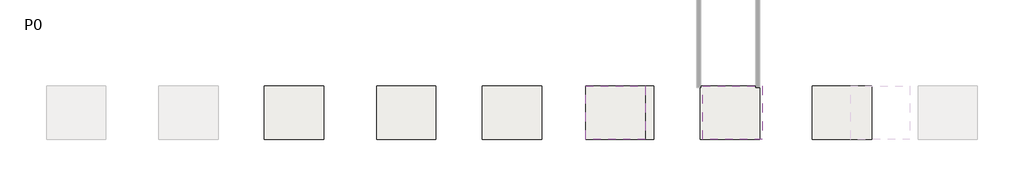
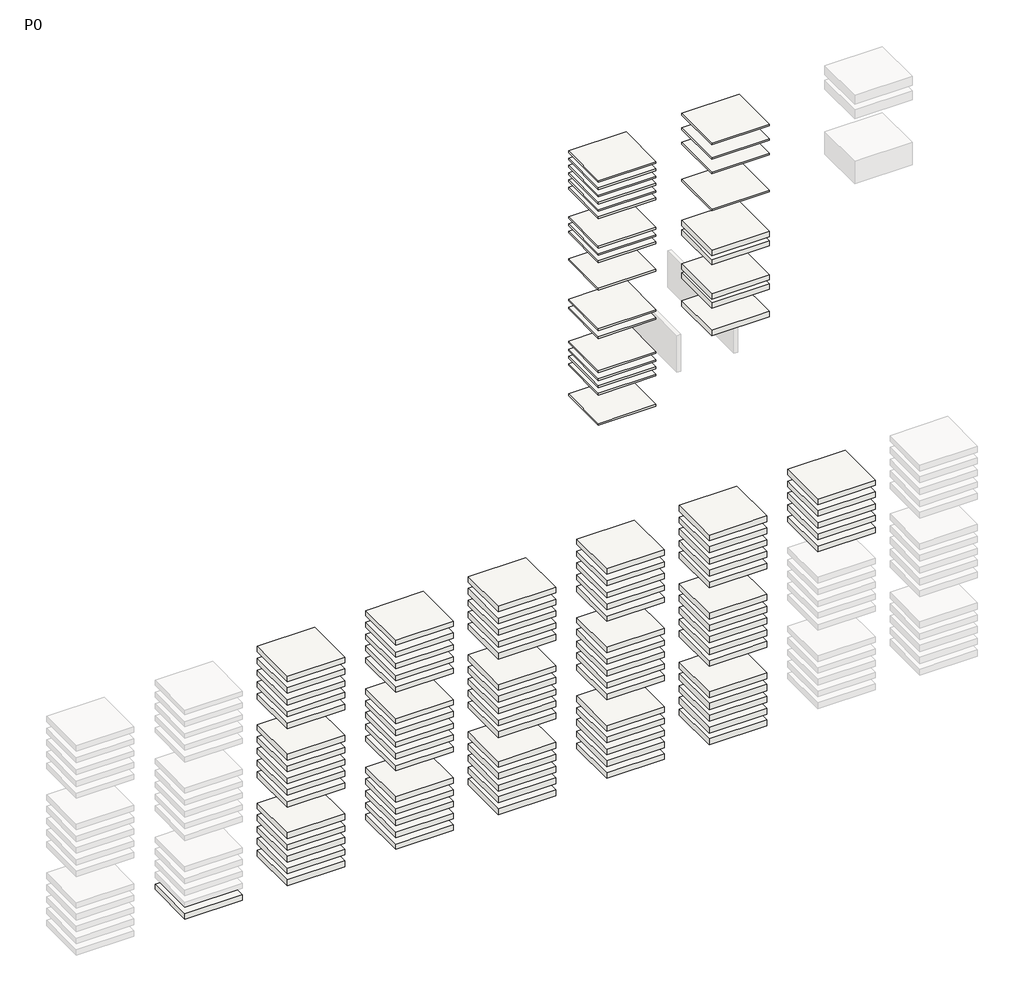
# One storey, part 4 of 11: 107 slabs.
"""IFC4 building model written with IfcOpenShell, lengths in millimetres."""

from ifc_helpers import new_model, si_unit, frame, origin, place, context, project, spatial, polyline, outline, extrude, element, save

model = new_model("IFC4")

# Units and contexts
model_context = context("Model", 3, world=origin())
ifc_project = project(units=[si_unit("LENGTHUNIT", "METRE", prefix="MILLI")], contexts=[model_context])

# Site, building, storey
site = spatial("IfcSite", under=ifc_project)
building = spatial("IfcBuilding", under=site)
storey = spatial("IfcBuildingStorey", under=building, Name="P0", Elevation=0.0)

# Slabs
placement = place(None, origin())
element("IfcSlab", 1, ObjectType="SOTTOFONDO IN PIETRISCO", at=placement, inside=storey, context=model_context, shape_type="SweptSolid", body=[
    extrude(outline(polyline([(91983.630207, 1686.0689128), (91983.630207, -1013.9310872), (88983.630207, -1013.9310872), (88983.630207, 1686.0689128), (91983.630207, 1686.0689128)])), frame((0.0, 0.0, 10663.6877445), z_axis=(0.0, 0.0, 1.0), x_axis=(1.0, 0.0, 0.0)), (0.0, 0.0, 1.0), 100.0),
])
element("IfcSlab", 2, ObjectType="PAVIMENTAZIONE DRENANTE GHIAIA", at=placement, inside=storey, context=model_context, shape_type="SweptSolid", body=[
    extrude(outline(polyline([(91983.630207, 1686.0689128), (91983.630207, -1013.9310872), (88983.630207, -1013.9310872), (88983.630207, 1686.0689128), (91983.630207, 1686.0689128)])), frame((0.0, 0.0, 8203.6877445), z_axis=(0.0, 0.0, 1.0), x_axis=(1.0, 0.0, 0.0)), (0.0, 0.0, 1.0), 300.0),
])
element("IfcSlab", 3, ObjectType="PAVIMENTAZIONE DRENANTE GHIAIA", at=placement, inside=storey, context=model_context, shape_type="SweptSolid", body=[
    extrude(outline(polyline([(91983.630207, 1686.0689128), (91983.630207, -1013.9310872), (88983.630207, -1013.9310872), (88983.630207, 1686.0689128), (91983.630207, 1686.0689128)])), frame((0.0, 0.0, 7683.6877445), z_axis=(0.0, 0.0, 1.0), x_axis=(1.0, 0.0, 0.0)), (0.0, 0.0, 1.0), 300.0),
])
element("IfcSlab", 4, ObjectType="NNEH16 H7", at=placement, inside=storey, context=model_context, shape_type="SweptSolid", body=[
    extrude(outline(polyline([(64510.1564071, 1686.0689128), (64510.1564071, -1013.9310872), (61510.1564071, -1013.9310872), (61510.1564071, 1686.0689128), (64510.1564071, 1686.0689128)])), frame((0.0, 0.0, -18769.5322376), z_axis=(0.0, 0.0, 1.0), x_axis=(1.0, 0.0, 0.0)), (0.0, 0.0, 1.0), 288.0),
])
element("IfcSlab", 5, ObjectType="NNEH16 H8", at=placement, inside=storey, context=model_context, shape_type="SweptSolid", body=[
    extrude(outline(polyline([(69850.1564071, 1686.0689128), (69850.1564071, -1013.9310872), (66850.1564071, -1013.9310872), (66850.1564071, 1686.0689128), (69850.1564071, 1686.0689128)])), frame((0.0, 0.0, -7539.5322376), z_axis=(0.0, 0.0, 1.0), x_axis=(1.0, 0.0, 0.0)), (0.0, 0.0, 1.0), 298.0),
])
element("IfcSlab", 6, ObjectType="NNEH16 H8", at=placement, inside=storey, context=model_context, shape_type="SweptSolid", body=[
    extrude(outline(polyline([(69850.1564071, 1686.0689128), (69850.1564071, -1013.9310872), (66850.1564071, -1013.9310872), (66850.1564071, 1686.0689128), (69850.1564071, 1686.0689128)])), frame((0.0, 0.0, -8189.5322376), z_axis=(0.0, 0.0, 1.0), x_axis=(1.0, 0.0, 0.0)), (0.0, 0.0, 1.0), 298.0),
])
element("IfcSlab", 7, ObjectType="NNEH16 H8", at=placement, inside=storey, context=model_context, shape_type="SweptSolid", body=[
    extrude(outline(polyline([(69850.1564071, 1686.0689128), (69850.1564071, -1013.9310872), (66850.1564071, -1013.9310872), (66850.1564071, 1686.0689128), (69850.1564071, 1686.0689128)])), frame((0.0, 0.0, -8839.5322376), z_axis=(0.0, 0.0, 1.0), x_axis=(1.0, 0.0, 0.0)), (0.0, 0.0, 1.0), 298.0),
])
element("IfcSlab", 8, ObjectType="NNEH16 H8", at=placement, inside=storey, context=model_context, shape_type="SweptSolid", body=[
    extrude(outline(polyline([(69850.1564071, 1686.0689128), (69850.1564071, -1013.9310872), (66850.1564071, -1013.9310872), (66850.1564071, 1686.0689128), (69850.1564071, 1686.0689128)])), frame((0.0, 0.0, -9489.5322376), z_axis=(0.0, 0.0, 1.0), x_axis=(1.0, 0.0, 0.0)), (0.0, 0.0, 1.0), 298.0),
])
element("IfcSlab", 9, ObjectType="NNEH16 H8", at=placement, inside=storey, context=model_context, shape_type="SweptSolid", body=[
    extrude(outline(polyline([(69850.1564071, 1686.0689128), (69850.1564071, -1013.9310872), (66850.1564071, -1013.9310872), (66850.1564071, 1686.0689128), (69850.1564071, 1686.0689128)])), frame((0.0, 0.0, -10139.5323192), z_axis=(0.0, 0.0, 1.0), x_axis=(1.0, 0.0, 0.0)), (0.0, 0.0, 1.0), 298.0),
])
element("IfcSlab", 10, ObjectType="NNEH16 H9", at=placement, inside=storey, context=model_context, shape_type="SweptSolid", body=[
    extrude(outline(polyline([(69850.1564071, 1686.0689128), (69850.1564071, -1013.9310872), (66850.1564071, -1013.9310872), (66850.1564071, 1686.0689128), (69850.1564071, 1686.0689128)])), frame((0.0, 0.0, -11869.532156), z_axis=(0.0, 0.0, 1.0), x_axis=(1.0, 0.0, 0.0)), (0.0, 0.0, 1.0), 308.0),
])
element("IfcSlab", 11, ObjectType="NNEH16 H9", at=placement, inside=storey, context=model_context, shape_type="SweptSolid", body=[
    extrude(outline(polyline([(69850.1564071, 1686.0689128), (69850.1564071, -1013.9310872), (66850.1564071, -1013.9310872), (66850.1564071, 1686.0689128), (69850.1564071, 1686.0689128)])), frame((0.0, 0.0, -12519.532156), z_axis=(0.0, 0.0, 1.0), x_axis=(1.0, 0.0, 0.0)), (0.0, 0.0, 1.0), 308.0),
])
element("IfcSlab", 12, ObjectType="NNEH16 H9", at=placement, inside=storey, context=model_context, shape_type="SweptSolid", body=[
    extrude(outline(polyline([(69850.1564071, 1686.0689128), (69850.1564071, -1013.9310872), (66850.1564071, -1013.9310872), (66850.1564071, 1686.0689128), (69850.1564071, 1686.0689128)])), frame((0.0, 0.0, -13169.532156), z_axis=(0.0, 0.0, 1.0), x_axis=(1.0, 0.0, 0.0)), (0.0, 0.0, 1.0), 308.0),
])
element("IfcSlab", 13, ObjectType="NNEH16 H9", at=placement, inside=storey, context=model_context, shape_type="SweptSolid", body=[
    extrude(outline(polyline([(69850.1564071, 1686.0689128), (69850.1564071, -1013.9310872), (66850.1564071, -1013.9310872), (66850.1564071, 1686.0689128), (69850.1564071, 1686.0689128)])), frame((0.0, 0.0, -13819.532156), z_axis=(0.0, 0.0, 1.0), x_axis=(1.0, 0.0, 0.0)), (0.0, 0.0, 1.0), 308.0),
])
element("IfcSlab", 14, ObjectType="NNEH16 H9", at=placement, inside=storey, context=model_context, shape_type="SweptSolid", body=[
    extrude(outline(polyline([(69850.1564071, 1686.0689128), (69850.1564071, -1013.9310872), (66850.1564071, -1013.9310872), (66850.1564071, 1686.0689128), (69850.1564071, 1686.0689128)])), frame((0.0, 0.0, -14469.532156), z_axis=(0.0, 0.0, 1.0), x_axis=(1.0, 0.0, 0.0)), (0.0, 0.0, 1.0), 308.0),
])
element("IfcSlab", 15, ObjectType="NNEH16 H10", at=placement, inside=storey, context=model_context, shape_type="SweptSolid", body=[
    extrude(outline(polyline([(69850.1564071, 1686.0689128), (69850.1564071, -1013.9310872), (66850.1564071, -1013.9310872), (66850.1564071, 1686.0689128), (69850.1564071, 1686.0689128)])), frame((0.0, 0.0, -16199.5322376), z_axis=(0.0, 0.0, 1.0), x_axis=(1.0, 0.0, 0.0)), (0.0, 0.0, 1.0), 318.0),
])
element("IfcSlab", 16, ObjectType="NNEH16 H10", at=placement, inside=storey, context=model_context, shape_type="SweptSolid", body=[
    extrude(outline(polyline([(69850.1564071, 1686.0689128), (69850.1564071, -1013.9310872), (66850.1564071, -1013.9310872), (66850.1564071, 1686.0689128), (69850.1564071, 1686.0689128)])), frame((0.0, 0.0, -16849.5322376), z_axis=(0.0, 0.0, 1.0), x_axis=(1.0, 0.0, 0.0)), (0.0, 0.0, 1.0), 318.0),
])
element("IfcSlab", 17, ObjectType="NNEH16 H10", at=placement, inside=storey, context=model_context, shape_type="SweptSolid", body=[
    extrude(outline(polyline([(69850.1564071, 1686.0689128), (69850.1564071, -1013.9310872), (66850.1564071, -1013.9310872), (66850.1564071, 1686.0689128), (69850.1564071, 1686.0689128)])), frame((0.0, 0.0, -17499.5322376), z_axis=(0.0, 0.0, 1.0), x_axis=(1.0, 0.0, 0.0)), (0.0, 0.0, 1.0), 318.0),
])
element("IfcSlab", 18, ObjectType="NNEH16 H10", at=placement, inside=storey, context=model_context, shape_type="SweptSolid", body=[
    extrude(outline(polyline([(69850.1564071, 1686.0689128), (69850.1564071, -1013.9310872), (66850.1564071, -1013.9310872), (66850.1564071, 1686.0689128), (69850.1564071, 1686.0689128)])), frame((0.0, 0.0, -18149.5322376), z_axis=(0.0, 0.0, 1.0), x_axis=(1.0, 0.0, 0.0)), (0.0, 0.0, 1.0), 318.0),
])
element("IfcSlab", 19, ObjectType="NNEH16 H10", at=placement, inside=storey, context=model_context, shape_type="SweptSolid", body=[
    extrude(outline(polyline([(69850.1564071, 1686.0689128), (69850.1564071, -1013.9310872), (66850.1564071, -1013.9310872), (66850.1564071, 1686.0689128), (69850.1564071, 1686.0689128)])), frame((0.0, 0.0, -18799.5322376), z_axis=(0.0, 0.0, 1.0), x_axis=(1.0, 0.0, 0.0)), (0.0, 0.0, 1.0), 318.0),
])
element("IfcSlab", 20, ObjectType="NNEH17 H5", at=placement, inside=storey, context=model_context, shape_type="SweptSolid", body=[
    extrude(outline(polyline([(75510.1564071, 1686.0689128), (75510.1564071, -1013.9310872), (72510.1564071, -1013.9310872), (72510.1564071, 1686.0689128), (75510.1564071, 1686.0689128)])), frame((0.0, 0.0, -7519.5323192), z_axis=(0.0, 0.0, 1.0), x_axis=(1.0, 0.0, 0.0)), (0.0, 0.0, 1.0), 278.0),
])
element("IfcSlab", 21, ObjectType="NNEH17 H5", at=placement, inside=storey, context=model_context, shape_type="SweptSolid", body=[
    extrude(outline(polyline([(75510.1564071, 1686.0689128), (75510.1564071, -1013.9310872), (72510.1564071, -1013.9310872), (72510.1564071, 1686.0689128), (75510.1564071, 1686.0689128)])), frame((0.0, 0.0, -8169.5322376), z_axis=(0.0, 0.0, 1.0), x_axis=(1.0, 0.0, 0.0)), (0.0, 0.0, 1.0), 278.0),
])
element("IfcSlab", 22, ObjectType="NNEH17 H5", at=placement, inside=storey, context=model_context, shape_type="SweptSolid", body=[
    extrude(outline(polyline([(75510.1564071, 1686.0689128), (75510.1564071, -1013.9310872), (72510.1564071, -1013.9310872), (72510.1564071, 1686.0689128), (75510.1564071, 1686.0689128)])), frame((0.0, 0.0, -8819.5322376), z_axis=(0.0, 0.0, 1.0), x_axis=(1.0, 0.0, 0.0)), (0.0, 0.0, 1.0), 278.0),
])
element("IfcSlab", 23, ObjectType="NNEH17 H5", at=placement, inside=storey, context=model_context, shape_type="SweptSolid", body=[
    extrude(outline(polyline([(75510.1564071, 1686.0689128), (75510.1564071, -1013.9310872), (72510.1564071, -1013.9310872), (72510.1564071, 1686.0689128), (75510.1564071, 1686.0689128)])), frame((0.0, 0.0, -9469.5322376), z_axis=(0.0, 0.0, 1.0), x_axis=(1.0, 0.0, 0.0)), (0.0, 0.0, 1.0), 278.0),
])
element("IfcSlab", 24, ObjectType="NNEH17 H5", at=placement, inside=storey, context=model_context, shape_type="SweptSolid", body=[
    extrude(outline(polyline([(75510.1564071, 1686.0689128), (75510.1564071, -1013.9310872), (72510.1564071, -1013.9310872), (72510.1564071, 1686.0689128), (75510.1564071, 1686.0689128)])), frame((0.0, 0.0, -10119.5323192), z_axis=(0.0, 0.0, 1.0), x_axis=(1.0, 0.0, 0.0)), (0.0, 0.0, 1.0), 278.0),
])
element("IfcSlab", 25, ObjectType="NNEH17 H6", at=placement, inside=storey, context=model_context, shape_type="SweptSolid", body=[
    extrude(outline(polyline([(75510.1564071, 1686.0689128), (75510.1564071, -1013.9310872), (72510.1564071, -1013.9310872), (72510.1564071, 1686.0689128), (75510.1564071, 1686.0689128)])), frame((0.0, 0.0, -11849.532156), z_axis=(0.0, 0.0, 1.0), x_axis=(1.0, 0.0, 0.0)), (0.0, 0.0, 1.0), 288.0),
])
element("IfcSlab", 26, ObjectType="NNEH17 H6", at=placement, inside=storey, context=model_context, shape_type="SweptSolid", body=[
    extrude(outline(polyline([(75510.1564071, 1686.0689128), (75510.1564071, -1013.9310872), (72510.1564071, -1013.9310872), (72510.1564071, 1686.0689128), (75510.1564071, 1686.0689128)])), frame((0.0, 0.0, -12499.532156), z_axis=(0.0, 0.0, 1.0), x_axis=(1.0, 0.0, 0.0)), (0.0, 0.0, 1.0), 288.0),
])
element("IfcSlab", 27, ObjectType="NNEH17 H6", at=placement, inside=storey, context=model_context, shape_type="SweptSolid", body=[
    extrude(outline(polyline([(75510.1564071, 1686.0689128), (75510.1564071, -1013.9310872), (72510.1564071, -1013.9310872), (72510.1564071, 1686.0689128), (75510.1564071, 1686.0689128)])), frame((0.0, 0.0, -13149.532156), z_axis=(0.0, 0.0, 1.0), x_axis=(1.0, 0.0, 0.0)), (0.0, 0.0, 1.0), 288.0),
])
element("IfcSlab", 28, ObjectType="NNEH17 H6", at=placement, inside=storey, context=model_context, shape_type="SweptSolid", body=[
    extrude(outline(polyline([(75510.1564071, 1686.0689128), (75510.1564071, -1013.9310872), (72510.1564071, -1013.9310872), (72510.1564071, 1686.0689128), (75510.1564071, 1686.0689128)])), frame((0.0, 0.0, -13799.532156), z_axis=(0.0, 0.0, 1.0), x_axis=(1.0, 0.0, 0.0)), (0.0, 0.0, 1.0), 288.0),
])
element("IfcSlab", 29, ObjectType="NNEH17 H6", at=placement, inside=storey, context=model_context, shape_type="SweptSolid", body=[
    extrude(outline(polyline([(75510.1564071, 1686.0689128), (75510.1564071, -1013.9310872), (72510.1564071, -1013.9310872), (72510.1564071, 1686.0689128), (75510.1564071, 1686.0689128)])), frame((0.0, 0.0, -14449.532156), z_axis=(0.0, 0.0, 1.0), x_axis=(1.0, 0.0, 0.0)), (0.0, 0.0, 1.0), 288.0),
])
element("IfcSlab", 30, ObjectType="NNEH17 H7", at=placement, inside=storey, context=model_context, shape_type="SweptSolid", body=[
    extrude(outline(polyline([(75510.1564071, 1686.0689128), (75510.1564071, -1013.9310872), (72510.1564071, -1013.9310872), (72510.1564071, 1686.0689128), (75510.1564071, 1686.0689128)])), frame((0.0, 0.0, -16179.5322376), z_axis=(0.0, 0.0, 1.0), x_axis=(1.0, 0.0, 0.0)), (0.0, 0.0, 1.0), 298.0),
])
element("IfcSlab", 31, ObjectType="NNEH17 H7", at=placement, inside=storey, context=model_context, shape_type="SweptSolid", body=[
    extrude(outline(polyline([(75510.1564071, 1686.0689128), (75510.1564071, -1013.9310872), (72510.1564071, -1013.9310872), (72510.1564071, 1686.0689128), (75510.1564071, 1686.0689128)])), frame((0.0, 0.0, -16829.5322376), z_axis=(0.0, 0.0, 1.0), x_axis=(1.0, 0.0, 0.0)), (0.0, 0.0, 1.0), 298.0),
])
element("IfcSlab", 32, ObjectType="NNEH17 H7", at=placement, inside=storey, context=model_context, shape_type="SweptSolid", body=[
    extrude(outline(polyline([(75510.1564071, 1686.0689128), (75510.1564071, -1013.9310872), (72510.1564071, -1013.9310872), (72510.1564071, 1686.0689128), (75510.1564071, 1686.0689128)])), frame((0.0, 0.0, -17479.5322376), z_axis=(0.0, 0.0, 1.0), x_axis=(1.0, 0.0, 0.0)), (0.0, 0.0, 1.0), 298.0),
])
element("IfcSlab", 33, ObjectType="NNEH17 H7", at=placement, inside=storey, context=model_context, shape_type="SweptSolid", body=[
    extrude(outline(polyline([(75510.1564071, 1686.0689128), (75510.1564071, -1013.9310872), (72510.1564071, -1013.9310872), (72510.1564071, 1686.0689128), (75510.1564071, 1686.0689128)])), frame((0.0, 0.0, -18129.5322376), z_axis=(0.0, 0.0, 1.0), x_axis=(1.0, 0.0, 0.0)), (0.0, 0.0, 1.0), 298.0),
])
element("IfcSlab", 34, ObjectType="NNEH17 H7", at=placement, inside=storey, context=model_context, shape_type="SweptSolid", body=[
    extrude(outline(polyline([(75510.1564071, 1686.0689128), (75510.1564071, -1013.9310872), (72510.1564071, -1013.9310872), (72510.1564071, 1686.0689128), (75510.1564071, 1686.0689128)])), frame((0.0, 0.0, -18779.5322376), z_axis=(0.0, 0.0, 1.0), x_axis=(1.0, 0.0, 0.0)), (0.0, 0.0, 1.0), 298.0),
])
element("IfcSlab", 35, ObjectType="NNEH17 H8", at=placement, inside=storey, context=model_context, shape_type="SweptSolid", body=[
    extrude(outline(polyline([(80850.1564071, 1686.0689128), (80850.1564071, -1013.9310872), (77850.1564071, -1013.9310872), (77850.1564071, 1686.0689128), (80850.1564071, 1686.0689128)])), frame((0.0, 0.0, -7549.5322376), z_axis=(0.0, 0.0, 1.0), x_axis=(1.0, 0.0, 0.0)), (0.0, 0.0, 1.0), 308.0),
])
element("IfcSlab", 36, ObjectType="NNEH17 H8", at=placement, inside=storey, context=model_context, shape_type="SweptSolid", body=[
    extrude(outline(polyline([(80850.1564071, 1686.0689128), (80850.1564071, -1013.9310872), (77850.1564071, -1013.9310872), (77850.1564071, 1686.0689128), (80850.1564071, 1686.0689128)])), frame((0.0, 0.0, -8199.5322376), z_axis=(0.0, 0.0, 1.0), x_axis=(1.0, 0.0, 0.0)), (0.0, 0.0, 1.0), 308.0),
])
element("IfcSlab", 37, ObjectType="NNEH17 H8", at=placement, inside=storey, context=model_context, shape_type="SweptSolid", body=[
    extrude(outline(polyline([(80850.1564071, 1686.0689128), (80850.1564071, -1013.9310872), (77850.1564071, -1013.9310872), (77850.1564071, 1686.0689128), (80850.1564071, 1686.0689128)])), frame((0.0, 0.0, -8849.5322376), z_axis=(0.0, 0.0, 1.0), x_axis=(1.0, 0.0, 0.0)), (0.0, 0.0, 1.0), 308.0),
])
element("IfcSlab", 38, ObjectType="NNEH17 H8", at=placement, inside=storey, context=model_context, shape_type="SweptSolid", body=[
    extrude(outline(polyline([(80850.1564071, 1686.0689128), (80850.1564071, -1013.9310872), (77850.1564071, -1013.9310872), (77850.1564071, 1686.0689128), (80850.1564071, 1686.0689128)])), frame((0.0, 0.0, -9499.5322376), z_axis=(0.0, 0.0, 1.0), x_axis=(1.0, 0.0, 0.0)), (0.0, 0.0, 1.0), 308.0),
])
element("IfcSlab", 39, ObjectType="NNEH17 H8", at=placement, inside=storey, context=model_context, shape_type="SweptSolid", body=[
    extrude(outline(polyline([(80850.1564071, 1686.0689128), (80850.1564071, -1013.9310872), (77850.1564071, -1013.9310872), (77850.1564071, 1686.0689128), (80850.1564071, 1686.0689128)])), frame((0.0, 0.0, -10149.5323192), z_axis=(0.0, 0.0, 1.0), x_axis=(1.0, 0.0, 0.0)), (0.0, 0.0, 1.0), 308.0),
])
element("IfcSlab", 40, ObjectType="NNEH17 H9", at=placement, inside=storey, context=model_context, shape_type="SweptSolid", body=[
    extrude(outline(polyline([(80850.1564071, 1686.0689128), (80850.1564071, -1013.9310872), (77850.1564071, -1013.9310872), (77850.1564071, 1686.0689128), (80850.1564071, 1686.0689128)])), frame((0.0, 0.0, -11879.532156), z_axis=(0.0, 0.0, 1.0), x_axis=(1.0, 0.0, 0.0)), (0.0, 0.0, 1.0), 318.0),
])
element("IfcSlab", 41, ObjectType="NNEH17 H9", at=placement, inside=storey, context=model_context, shape_type="SweptSolid", body=[
    extrude(outline(polyline([(80850.1564071, 1686.0689128), (80850.1564071, -1013.9310872), (77850.1564071, -1013.9310872), (77850.1564071, 1686.0689128), (80850.1564071, 1686.0689128)])), frame((0.0, 0.0, -12529.532156), z_axis=(0.0, 0.0, 1.0), x_axis=(1.0, 0.0, 0.0)), (0.0, 0.0, 1.0), 318.0),
])
element("IfcSlab", 42, ObjectType="NNEH17 H9", at=placement, inside=storey, context=model_context, shape_type="SweptSolid", body=[
    extrude(outline(polyline([(80850.1564071, 1686.0689128), (80850.1564071, -1013.9310872), (77850.1564071, -1013.9310872), (77850.1564071, 1686.0689128), (80850.1564071, 1686.0689128)])), frame((0.0, 0.0, -13179.532156), z_axis=(0.0, 0.0, 1.0), x_axis=(1.0, 0.0, 0.0)), (0.0, 0.0, 1.0), 318.0),
])
element("IfcSlab", 43, ObjectType="NNEH17 H9", at=placement, inside=storey, context=model_context, shape_type="SweptSolid", body=[
    extrude(outline(polyline([(80850.1564071, 1686.0689128), (80850.1564071, -1013.9310872), (77850.1564071, -1013.9310872), (77850.1564071, 1686.0689128), (80850.1564071, 1686.0689128)])), frame((0.0, 0.0, -13829.532156), z_axis=(0.0, 0.0, 1.0), x_axis=(1.0, 0.0, 0.0)), (0.0, 0.0, 1.0), 318.0),
])
element("IfcSlab", 44, ObjectType="NNEH17 H9", at=placement, inside=storey, context=model_context, shape_type="SweptSolid", body=[
    extrude(outline(polyline([(80850.1564071, 1686.0689128), (80850.1564071, -1013.9310872), (77850.1564071, -1013.9310872), (77850.1564071, 1686.0689128), (80850.1564071, 1686.0689128)])), frame((0.0, 0.0, -14479.532156), z_axis=(0.0, 0.0, 1.0), x_axis=(1.0, 0.0, 0.0)), (0.0, 0.0, 1.0), 318.0),
])
element("IfcSlab", 45, ObjectType="NNEH17 H10", at=placement, inside=storey, context=model_context, shape_type="SweptSolid", body=[
    extrude(outline(polyline([(80850.1564071, 1686.0689128), (80850.1564071, -1013.9310872), (77850.1564071, -1013.9310872), (77850.1564071, 1686.0689128), (80850.1564071, 1686.0689128)])), frame((0.0, 0.0, -16129.5323192), z_axis=(0.0, 0.0, 1.0), x_axis=(1.0, 0.0, 0.0)), (0.0, 0.0, 1.0), 328.0),
])
element("IfcSlab", 46, ObjectType="NNEH17 H10", at=placement, inside=storey, context=model_context, shape_type="SweptSolid", body=[
    extrude(outline(polyline([(80850.1564071, 1686.0689128), (80850.1564071, -1013.9310872), (77850.1564071, -1013.9310872), (77850.1564071, 1686.0689128), (80850.1564071, 1686.0689128)])), frame((0.0, 0.0, -16779.5323192), z_axis=(0.0, 0.0, 1.0), x_axis=(1.0, 0.0, 0.0)), (0.0, 0.0, 1.0), 328.0),
])
element("IfcSlab", 47, ObjectType="NNEH17 H10", at=placement, inside=storey, context=model_context, shape_type="SweptSolid", body=[
    extrude(outline(polyline([(80850.1564071, 1686.0689128), (80850.1564071, -1013.9310872), (77850.1564071, -1013.9310872), (77850.1564071, 1686.0689128), (80850.1564071, 1686.0689128)])), frame((0.0, 0.0, -17429.5323192), z_axis=(0.0, 0.0, 1.0), x_axis=(1.0, 0.0, 0.0)), (0.0, 0.0, 1.0), 328.0),
])
element("IfcSlab", 48, ObjectType="NNEH17 H10", at=placement, inside=storey, context=model_context, shape_type="SweptSolid", body=[
    extrude(outline(polyline([(80850.1564071, 1686.0689128), (80850.1564071, -1013.9310872), (77850.1564071, -1013.9310872), (77850.1564071, 1686.0689128), (80850.1564071, 1686.0689128)])), frame((0.0, 0.0, -18079.5323192), z_axis=(0.0, 0.0, 1.0), x_axis=(1.0, 0.0, 0.0)), (0.0, 0.0, 1.0), 328.0),
])
element("IfcSlab", 49, ObjectType="NNEH17 H10", at=placement, inside=storey, context=model_context, shape_type="SweptSolid", body=[
    extrude(outline(polyline([(80850.1564071, 1686.0689128), (80850.1564071, -1013.9310872), (77850.1564071, -1013.9310872), (77850.1564071, 1686.0689128), (80850.1564071, 1686.0689128)])), frame((0.0, 0.0, -18729.5323192), z_axis=(0.0, 0.0, 1.0), x_axis=(1.0, 0.0, 0.0)), (0.0, 0.0, 1.0), 328.0),
])
element("IfcSlab", 50, ObjectType="NNEH18 H5", at=placement, inside=storey, context=model_context, shape_type="SweptSolid", body=[
    extrude(outline(polyline([(86510.1564071, 1686.0689128), (86510.1564071, -1013.9310872), (83510.1564071, -1013.9310872), (83510.1564071, 1686.0689128), (86510.1564071, 1686.0689128)])), frame((0.0, 0.0, -7449.5324008), z_axis=(0.0, 0.0, 1.0), x_axis=(1.0, 0.0, 0.0)), (0.0, 0.0, 1.0), 288.0),
])
element("IfcSlab", 51, ObjectType="NNEH18 H5", at=placement, inside=storey, context=model_context, shape_type="SweptSolid", body=[
    extrude(outline(polyline([(86510.1564071, 1686.0689128), (86510.1564071, -1013.9310872), (83510.1564071, -1013.9310872), (83510.1564071, 1686.0689128), (86510.1564071, 1686.0689128)])), frame((0.0, 0.0, -8099.5323192), z_axis=(0.0, 0.0, 1.0), x_axis=(1.0, 0.0, 0.0)), (0.0, 0.0, 1.0), 288.0),
])
element("IfcSlab", 52, ObjectType="NNEH18 H5", at=placement, inside=storey, context=model_context, shape_type="SweptSolid", body=[
    extrude(outline(polyline([(86510.1564071, 1686.0689128), (86510.1564071, -1013.9310872), (83510.1564071, -1013.9310872), (83510.1564071, 1686.0689128), (86510.1564071, 1686.0689128)])), frame((0.0, 0.0, -8749.5323192), z_axis=(0.0, 0.0, 1.0), x_axis=(1.0, 0.0, 0.0)), (0.0, 0.0, 1.0), 288.0),
])
element("IfcSlab", 53, ObjectType="NNEH18 H5", at=placement, inside=storey, context=model_context, shape_type="SweptSolid", body=[
    extrude(outline(polyline([(86510.1564071, 1686.0689128), (86510.1564071, -1013.9310872), (83510.1564071, -1013.9310872), (83510.1564071, 1686.0689128), (86510.1564071, 1686.0689128)])), frame((0.0, 0.0, -9399.5323192), z_axis=(0.0, 0.0, 1.0), x_axis=(1.0, 0.0, 0.0)), (0.0, 0.0, 1.0), 288.0),
])
element("IfcSlab", 54, ObjectType="NNEH18 H5", at=placement, inside=storey, context=model_context, shape_type="SweptSolid", body=[
    extrude(outline(polyline([(86510.1564071, 1686.0689128), (86510.1564071, -1013.9310872), (83510.1564071, -1013.9310872), (83510.1564071, 1686.0689128), (86510.1564071, 1686.0689128)])), frame((0.0, 0.0, -10049.5324008), z_axis=(0.0, 0.0, 1.0), x_axis=(1.0, 0.0, 0.0)), (0.0, 0.0, 1.0), 288.0),
])
element("IfcSlab", 55, ObjectType="NNEH18 H6", at=placement, inside=storey, context=model_context, shape_type="SweptSolid", body=[
    extrude(outline(polyline([(86510.1564071, 1686.0689128), (86510.1564071, -1013.9310872), (83510.1564071, -1013.9310872), (83510.1564071, 1686.0689128), (86510.1564071, 1686.0689128)])), frame((0.0, 0.0, -11779.5322376), z_axis=(0.0, 0.0, 1.0), x_axis=(1.0, 0.0, 0.0)), (0.0, 0.0, 1.0), 298.0),
])
element("IfcSlab", 56, ObjectType="NNEH18 H6", at=placement, inside=storey, context=model_context, shape_type="SweptSolid", body=[
    extrude(outline(polyline([(86510.1564071, 1686.0689128), (86510.1564071, -1013.9310872), (83510.1564071, -1013.9310872), (83510.1564071, 1686.0689128), (86510.1564071, 1686.0689128)])), frame((0.0, 0.0, -12429.5322376), z_axis=(0.0, 0.0, 1.0), x_axis=(1.0, 0.0, 0.0)), (0.0, 0.0, 1.0), 298.0),
])
element("IfcSlab", 57, ObjectType="NNEH18 H6", at=placement, inside=storey, context=model_context, shape_type="SweptSolid", body=[
    extrude(outline(polyline([(86510.1564071, 1686.0689128), (86510.1564071, -1013.9310872), (83510.1564071, -1013.9310872), (83510.1564071, 1686.0689128), (86510.1564071, 1686.0689128)])), frame((0.0, 0.0, -13079.5322376), z_axis=(0.0, 0.0, 1.0), x_axis=(1.0, 0.0, 0.0)), (0.0, 0.0, 1.0), 298.0),
])
element("IfcSlab", 58, ObjectType="NNEH18 H6", at=placement, inside=storey, context=model_context, shape_type="SweptSolid", body=[
    extrude(outline(polyline([(86510.1564071, 1686.0689128), (86510.1564071, -1013.9310872), (83510.1564071, -1013.9310872), (83510.1564071, 1686.0689128), (86510.1564071, 1686.0689128)])), frame((0.0, 0.0, -13729.5322376), z_axis=(0.0, 0.0, 1.0), x_axis=(1.0, 0.0, 0.0)), (0.0, 0.0, 1.0), 298.0),
])
element("IfcSlab", 59, ObjectType="NNEH18 H6", at=placement, inside=storey, context=model_context, shape_type="SweptSolid", body=[
    extrude(outline(polyline([(86510.1564071, 1686.0689128), (86510.1564071, -1013.9310872), (83510.1564071, -1013.9310872), (83510.1564071, 1686.0689128), (86510.1564071, 1686.0689128)])), frame((0.0, 0.0, -14379.5322376), z_axis=(0.0, 0.0, 1.0), x_axis=(1.0, 0.0, 0.0)), (0.0, 0.0, 1.0), 298.0),
])
element("IfcSlab", 60, ObjectType="NNEH18 H7", at=placement, inside=storey, context=model_context, shape_type="SweptSolid", body=[
    extrude(outline(polyline([(86510.1564071, 1686.0689128), (86510.1564071, -1013.9310872), (83510.1564071, -1013.9310872), (83510.1564071, 1686.0689128), (86510.1564071, 1686.0689128)])), frame((0.0, 0.0, -16109.5323192), z_axis=(0.0, 0.0, 1.0), x_axis=(1.0, 0.0, 0.0)), (0.0, 0.0, 1.0), 308.0),
])
element("IfcSlab", 61, ObjectType="NNEH18 H7", at=placement, inside=storey, context=model_context, shape_type="SweptSolid", body=[
    extrude(outline(polyline([(86510.1564071, 1686.0689128), (86510.1564071, -1013.9310872), (83510.1564071, -1013.9310872), (83510.1564071, 1686.0689128), (86510.1564071, 1686.0689128)])), frame((0.0, 0.0, -16759.5323192), z_axis=(0.0, 0.0, 1.0), x_axis=(1.0, 0.0, 0.0)), (0.0, 0.0, 1.0), 308.0),
])
element("IfcSlab", 62, ObjectType="NNEH18 H7", at=placement, inside=storey, context=model_context, shape_type="SweptSolid", body=[
    extrude(outline(polyline([(86510.1564071, 1686.0689128), (86510.1564071, -1013.9310872), (83510.1564071, -1013.9310872), (83510.1564071, 1686.0689128), (86510.1564071, 1686.0689128)])), frame((0.0, 0.0, -17409.5323192), z_axis=(0.0, 0.0, 1.0), x_axis=(1.0, 0.0, 0.0)), (0.0, 0.0, 1.0), 308.0),
])
element("IfcSlab", 63, ObjectType="NNEH18 H7", at=placement, inside=storey, context=model_context, shape_type="SweptSolid", body=[
    extrude(outline(polyline([(86510.1564071, 1686.0689128), (86510.1564071, -1013.9310872), (83510.1564071, -1013.9310872), (83510.1564071, 1686.0689128), (86510.1564071, 1686.0689128)])), frame((0.0, 0.0, -18059.5323192), z_axis=(0.0, 0.0, 1.0), x_axis=(1.0, 0.0, 0.0)), (0.0, 0.0, 1.0), 308.0),
])
element("IfcSlab", 64, ObjectType="NNEH18 H7", at=placement, inside=storey, context=model_context, shape_type="SweptSolid", body=[
    extrude(outline(polyline([(86510.1564071, 1686.0689128), (86510.1564071, -1013.9310872), (83510.1564071, -1013.9310872), (83510.1564071, 1686.0689128), (86510.1564071, 1686.0689128)])), frame((0.0, 0.0, -18709.5323192), z_axis=(0.0, 0.0, 1.0), x_axis=(1.0, 0.0, 0.0)), (0.0, 0.0, 1.0), 308.0),
])
element("IfcSlab", 65, ObjectType="NNEH18 H8", at=placement, inside=storey, context=model_context, shape_type="SweptSolid", body=[
    extrude(outline(polyline([(91850.1564071, 1686.0689128), (91850.1564071, -1013.9310872), (88850.1564071, -1013.9310872), (88850.1564071, 1686.0689128), (91850.1564071, 1686.0689128)])), frame((0.0, 0.0, -7479.5323192), z_axis=(0.0, 0.0, 1.0), x_axis=(1.0, 0.0, 0.0)), (0.0, 0.0, 1.0), 318.0),
])
element("IfcSlab", 66, ObjectType="NNEH18 H8", at=placement, inside=storey, context=model_context, shape_type="SweptSolid", body=[
    extrude(outline(polyline([(91850.1564071, 1686.0689128), (91850.1564071, -1013.9310872), (88850.1564071, -1013.9310872), (88850.1564071, 1686.0689128), (91850.1564071, 1686.0689128)])), frame((0.0, 0.0, -8129.5323192), z_axis=(0.0, 0.0, 1.0), x_axis=(1.0, 0.0, 0.0)), (0.0, 0.0, 1.0), 318.0),
])
element("IfcSlab", 67, ObjectType="NNEH18 H8", at=placement, inside=storey, context=model_context, shape_type="SweptSolid", body=[
    extrude(outline(polyline([(91850.1564071, 1686.0689128), (91850.1564071, -1013.9310872), (88850.1564071, -1013.9310872), (88850.1564071, 1686.0689128), (91850.1564071, 1686.0689128)])), frame((0.0, 0.0, -8779.5323192), z_axis=(0.0, 0.0, 1.0), x_axis=(1.0, 0.0, 0.0)), (0.0, 0.0, 1.0), 318.0),
])
element("IfcSlab", 68, ObjectType="NNEH18 H8", at=placement, inside=storey, context=model_context, shape_type="SweptSolid", body=[
    extrude(outline(polyline([(91850.1564071, 1686.0689128), (91850.1564071, -1013.9310872), (88850.1564071, -1013.9310872), (88850.1564071, 1686.0689128), (91850.1564071, 1686.0689128)])), frame((0.0, 0.0, -9429.5323192), z_axis=(0.0, 0.0, 1.0), x_axis=(1.0, 0.0, 0.0)), (0.0, 0.0, 1.0), 318.0),
])
element("IfcSlab", 69, ObjectType="NNEH18 H8", at=placement, inside=storey, context=model_context, shape_type="SweptSolid", body=[
    extrude(outline(polyline([(91850.1564071, 1686.0689128), (91850.1564071, -1013.9310872), (88850.1564071, -1013.9310872), (88850.1564071, 1686.0689128), (91850.1564071, 1686.0689128)])), frame((0.0, 0.0, -10079.5324008), z_axis=(0.0, 0.0, 1.0), x_axis=(1.0, 0.0, 0.0)), (0.0, 0.0, 1.0), 318.0),
])
element("IfcSlab", 70, ObjectType="NNEH18 H9", at=placement, inside=storey, context=model_context, shape_type="SweptSolid", body=[
    extrude(outline(polyline([(91850.1564071, 1686.0689128), (91850.1564071, -1013.9310872), (88850.1564071, -1013.9310872), (88850.1564071, 1686.0689128), (91850.1564071, 1686.0689128)])), frame((0.0, 0.0, -11809.5322376), z_axis=(0.0, 0.0, 1.0), x_axis=(1.0, 0.0, 0.0)), (0.0, 0.0, 1.0), 328.0),
])
element("IfcSlab", 71, ObjectType="NNEH18 H9", at=placement, inside=storey, context=model_context, shape_type="SweptSolid", body=[
    extrude(outline(polyline([(91850.1564071, 1686.0689128), (91850.1564071, -1013.9310872), (88850.1564071, -1013.9310872), (88850.1564071, 1686.0689128), (91850.1564071, 1686.0689128)])), frame((0.0, 0.0, -12459.5322376), z_axis=(0.0, 0.0, 1.0), x_axis=(1.0, 0.0, 0.0)), (0.0, 0.0, 1.0), 328.0),
])
element("IfcSlab", 72, ObjectType="NNEH18 H9", at=placement, inside=storey, context=model_context, shape_type="SweptSolid", body=[
    extrude(outline(polyline([(91850.1564071, 1686.0689128), (91850.1564071, -1013.9310872), (88850.1564071, -1013.9310872), (88850.1564071, 1686.0689128), (91850.1564071, 1686.0689128)])), frame((0.0, 0.0, -13109.5322376), z_axis=(0.0, 0.0, 1.0), x_axis=(1.0, 0.0, 0.0)), (0.0, 0.0, 1.0), 328.0),
])
element("IfcSlab", 73, ObjectType="NNEH18 H9", at=placement, inside=storey, context=model_context, shape_type="SweptSolid", body=[
    extrude(outline(polyline([(91850.1564071, 1686.0689128), (91850.1564071, -1013.9310872), (88850.1564071, -1013.9310872), (88850.1564071, 1686.0689128), (91850.1564071, 1686.0689128)])), frame((0.0, 0.0, -13759.5322376), z_axis=(0.0, 0.0, 1.0), x_axis=(1.0, 0.0, 0.0)), (0.0, 0.0, 1.0), 328.0),
])
element("IfcSlab", 74, ObjectType="NNEH18 H9", at=placement, inside=storey, context=model_context, shape_type="SweptSolid", body=[
    extrude(outline(polyline([(91850.1564071, 1686.0689128), (91850.1564071, -1013.9310872), (88850.1564071, -1013.9310872), (88850.1564071, 1686.0689128), (91850.1564071, 1686.0689128)])), frame((0.0, 0.0, -14409.5322376), z_axis=(0.0, 0.0, 1.0), x_axis=(1.0, 0.0, 0.0)), (0.0, 0.0, 1.0), 328.0),
])
element("IfcSlab", 75, ObjectType="NNEH18 H10", at=placement, inside=storey, context=model_context, shape_type="SweptSolid", body=[
    extrude(outline(polyline([(91850.1564071, 1686.0689128), (91850.1564071, -1013.9310872), (88850.1564071, -1013.9310872), (88850.1564071, 1686.0689128), (91850.1564071, 1686.0689128)])), frame((0.0, 0.0, -16139.5323192), z_axis=(0.0, 0.0, 1.0), x_axis=(1.0, 0.0, 0.0)), (0.0, 0.0, 1.0), 338.0),
])
element("IfcSlab", 76, ObjectType="NNEH18 H10", at=placement, inside=storey, context=model_context, shape_type="SweptSolid", body=[
    extrude(outline(polyline([(91850.1564071, 1686.0689128), (91850.1564071, -1013.9310872), (88850.1564071, -1013.9310872), (88850.1564071, 1686.0689128), (91850.1564071, 1686.0689128)])), frame((0.0, 0.0, -16789.5323192), z_axis=(0.0, 0.0, 1.0), x_axis=(1.0, 0.0, 0.0)), (0.0, 0.0, 1.0), 338.0),
])
element("IfcSlab", 77, ObjectType="NNEH18 H10", at=placement, inside=storey, context=model_context, shape_type="SweptSolid", body=[
    extrude(outline(polyline([(91850.1564071, 1686.0689128), (91850.1564071, -1013.9310872), (88850.1564071, -1013.9310872), (88850.1564071, 1686.0689128), (91850.1564071, 1686.0689128)])), frame((0.0, 0.0, -17439.5323192), z_axis=(0.0, 0.0, 1.0), x_axis=(1.0, 0.0, 0.0)), (0.0, 0.0, 1.0), 338.0),
])
element("IfcSlab", 78, ObjectType="NNEH18 H10", at=placement, inside=storey, context=model_context, shape_type="SweptSolid", body=[
    extrude(outline(polyline([(91850.1564071, 1686.0689128), (91850.1564071, -1013.9310872), (88850.1564071, -1013.9310872), (88850.1564071, 1686.0689128), (91850.1564071, 1686.0689128)])), frame((0.0, 0.0, -18089.5323192), z_axis=(0.0, 0.0, 1.0), x_axis=(1.0, 0.0, 0.0)), (0.0, 0.0, 1.0), 338.0),
])
element("IfcSlab", 79, ObjectType="NNEH18 H10", at=placement, inside=storey, context=model_context, shape_type="SweptSolid", body=[
    extrude(outline(polyline([(91850.1564071, 1686.0689128), (91850.1564071, -1013.9310872), (88850.1564071, -1013.9310872), (88850.1564071, 1686.0689128), (91850.1564071, 1686.0689128)])), frame((0.0, 0.0, -18739.5323192), z_axis=(0.0, 0.0, 1.0), x_axis=(1.0, 0.0, 0.0)), (0.0, 0.0, 1.0), 338.0),
])
element("IfcSlab", 80, ObjectType="NNEH19 H5", at=placement, inside=storey, context=model_context, shape_type="SweptSolid", body=[
    extrude(outline(polyline([(97510.1564071, 1686.0689128), (97510.1564071, -1013.9310872), (94510.1564071, -1013.9310872), (94510.1564071, 1686.0689128), (97510.1564071, 1686.0689128)])), frame((0.0, 0.0, -7459.5324008), z_axis=(0.0, 0.0, 1.0), x_axis=(1.0, 0.0, 0.0)), (0.0, 0.0, 1.0), 298.0),
])
element("IfcSlab", 81, ObjectType="NNEH19 H5", at=placement, inside=storey, context=model_context, shape_type="SweptSolid", body=[
    extrude(outline(polyline([(97510.1564071, 1686.0689128), (97510.1564071, -1013.9310872), (94510.1564071, -1013.9310872), (94510.1564071, 1686.0689128), (97510.1564071, 1686.0689128)])), frame((0.0, 0.0, -8109.5323192), z_axis=(0.0, 0.0, 1.0), x_axis=(1.0, 0.0, 0.0)), (0.0, 0.0, 1.0), 298.0),
])
element("IfcSlab", 82, ObjectType="NNEH19 H5", at=placement, inside=storey, context=model_context, shape_type="SweptSolid", body=[
    extrude(outline(polyline([(97510.1564071, 1686.0689128), (97510.1564071, -1013.9310872), (94510.1564071, -1013.9310872), (94510.1564071, 1686.0689128), (97510.1564071, 1686.0689128)])), frame((0.0, 0.0, -8759.5323192), z_axis=(0.0, 0.0, 1.0), x_axis=(1.0, 0.0, 0.0)), (0.0, 0.0, 1.0), 298.0),
])
element("IfcSlab", 83, ObjectType="NNEH19 H5", at=placement, inside=storey, context=model_context, shape_type="SweptSolid", body=[
    extrude(outline(polyline([(97510.1564071, 1686.0689128), (97510.1564071, -1013.9310872), (94510.1564071, -1013.9310872), (94510.1564071, 1686.0689128), (97510.1564071, 1686.0689128)])), frame((0.0, 0.0, -9409.5323192), z_axis=(0.0, 0.0, 1.0), x_axis=(1.0, 0.0, 0.0)), (0.0, 0.0, 1.0), 298.0),
])
element("IfcSlab", 84, ObjectType="NNEH19 H5", at=placement, inside=storey, context=model_context, shape_type="SweptSolid", body=[
    extrude(outline(polyline([(97510.1564071, 1686.0689128), (97510.1564071, -1013.9310872), (94510.1564071, -1013.9310872), (94510.1564071, 1686.0689128), (97510.1564071, 1686.0689128)])), frame((0.0, 0.0, -10059.5324008), z_axis=(0.0, 0.0, 1.0), x_axis=(1.0, 0.0, 0.0)), (0.0, 0.0, 1.0), 298.0),
])
element("IfcSlab", 85, ObjectType="PAVIMENTAZIONE DRENANTE VERDE", at=placement, inside=storey, context=model_context, shape_type="SweptSolid", body=[
    extrude(outline(polyline([(91981.2247711, 1686.0689128), (91981.2247711, -1013.9310872), (88981.2247711, -1013.9310872), (88981.2247711, 1686.0689128), (91981.2247711, 1686.0689128)])), frame((0.0, 0.0, 5307.5952488), z_axis=(0.0, 0.0, 1.0), x_axis=(1.0, 0.0, 0.0)), (0.0, 0.0, 1.0), 300.0),
])
element("IfcSlab", 86, ObjectType="PAVIMENTAZIONE DRENANTE VERDE", at=placement, inside=storey, context=model_context, shape_type="SweptSolid", body=[
    extrude(outline(polyline([(91981.2247711, 1686.0689128), (91981.2247711, -1013.9310872), (88981.2247711, -1013.9310872), (88981.2247711, 1686.0689128), (91981.2247711, 1686.0689128)])), frame((0.0, 0.0, 5807.5936128), z_axis=(0.0, 0.0, 1.0), x_axis=(1.0, 0.0, 0.0)), (0.0, 0.0, 1.0), 300.0),
])
element("IfcSlab", 87, ObjectType="PAVIMENTAZIONE DRENANTE VERDE", at=placement, inside=storey, context=model_context, shape_type="SweptSolid", body=[
    extrude(outline(polyline([(91981.2247711, 1686.0689128), (91981.2247711, -1013.9310872), (88981.2247711, -1013.9310872), (88981.2247711, 1686.0689128), (91981.2247711, 1686.0689128)])), frame((0.0, 0.0, 3779.5144953), z_axis=(0.0, 0.0, 1.0), x_axis=(1.0, 0.0, 0.0)), (0.0, 0.0, 1.0), 300.0),
])
element("IfcSlab", 88, ObjectType="TERRENO", at=placement, inside=storey, context=model_context, shape_type="SweptSolid", body=[
    extrude(outline(polyline([(86081.2247711, 1686.0689128), (86081.2247711, -1013.9310872), (83081.2247711, -1013.9310872), (83081.2247711, 1686.0689128), (86081.2247711, 1686.0689128)])), frame((0.0, 0.0, 14303.6877445), z_axis=(0.0, 0.0, 1.0), x_axis=(1.0, 0.0, 0.0)), (0.0, 0.0, 1.0), 100.0),
])
element("IfcSlab", 89, ObjectType="TERRENO", at=placement, inside=storey, context=model_context, shape_type="SweptSolid", body=[
    extrude(outline(polyline([(86081.2247711, 1686.0689128), (86081.2247711, -1013.9310872), (83081.2247711, -1013.9310872), (83081.2247711, 1686.0689128), (86081.2247711, 1686.0689128)])), frame((0.0, 0.0, 13903.6877445), z_axis=(0.0, 0.0, 1.0), x_axis=(1.0, 0.0, 0.0)), (0.0, 0.0, 1.0), 100.0),
])
element("IfcSlab", 90, ObjectType="TERRENO", at=placement, inside=storey, context=model_context, shape_type="SweptSolid", body=[
    extrude(outline(polyline([(86081.2247711, 1686.0689128), (86081.2247711, -1013.9310872), (83081.2247711, -1013.9310872), (83081.2247711, 1686.0689128), (86081.2247711, 1686.0689128)])), frame((0.0, 0.0, 13503.6877445), z_axis=(0.0, 0.0, 1.0), x_axis=(1.0, 0.0, 0.0)), (0.0, 0.0, 1.0), 100.0),
])
element("IfcSlab", 91, ObjectType="TERRENO", at=placement, inside=storey, context=model_context, shape_type="SweptSolid", body=[
    extrude(outline(polyline([(86081.2247711, 1686.0689128), (86081.2247711, -1013.9310872), (83081.2247711, -1013.9310872), (83081.2247711, 1686.0689128), (86081.2247711, 1686.0689128)])), frame((0.0, 0.0, 13103.6877445), z_axis=(0.0, 0.0, 1.0), x_axis=(1.0, 0.0, 0.0)), (0.0, 0.0, 1.0), 100.0),
])
element("IfcSlab", 92, ObjectType="TERRENO", at=placement, inside=storey, context=model_context, shape_type="SweptSolid", body=[
    extrude(outline(polyline([(86081.2247711, 1686.0689128), (86081.2247711, -1013.9310872), (83081.2247711, -1013.9310872), (83081.2247711, 1686.0689128), (86081.2247711, 1686.0689128)])), frame((0.0, 0.0, 12703.6877445), z_axis=(0.0, 0.0, 1.0), x_axis=(1.0, 0.0, 0.0)), (0.0, 0.0, 1.0), 100.0),
])
element("IfcSlab", 93, ObjectType="TERRENO", at=placement, inside=storey, context=model_context, shape_type="SweptSolid", body=[
    extrude(outline(polyline([(86081.2247711, 1686.0689128), (86081.2247711, -1013.9310872), (83081.2247711, -1013.9310872), (83081.2247711, 1686.0689128), (86081.2247711, 1686.0689128)])), frame((0.0, 0.0, 12303.6877445), z_axis=(0.0, 0.0, 1.0), x_axis=(1.0, 0.0, 0.0)), (0.0, 0.0, 1.0), 100.0),
])
element("IfcSlab", 94, ObjectType="TERRENO", at=placement, inside=storey, context=model_context, shape_type="SweptSolid", body=[
    extrude(outline(polyline([(86081.2247711, 1686.0689128), (86081.2247711, -1013.9310872), (83081.2247711, -1013.9310872), (83081.2247711, 1686.0689128), (86081.2247711, 1686.0689128)])), frame((0.0, 0.0, 10677.5952488), z_axis=(0.0, 0.0, 1.0), x_axis=(1.0, 0.0, 0.0)), (0.0, 0.0, 1.0), 100.0),
])
element("IfcSlab", 95, ObjectType="TERRENO", at=placement, inside=storey, context=model_context, shape_type="SweptSolid", body=[
    extrude(outline(polyline([(86081.2247711, 1686.0689128), (86081.2247711, -1013.9310872), (83081.2247711, -1013.9310872), (83081.2247711, 1686.0689128), (86081.2247711, 1686.0689128)])), frame((0.0, 0.0, 10277.5952488), z_axis=(0.0, 0.0, 1.0), x_axis=(1.0, 0.0, 0.0)), (0.0, 0.0, 1.0), 100.0),
])
element("IfcSlab", 96, ObjectType="TERRENO", at=placement, inside=storey, context=model_context, shape_type="SweptSolid", body=[
    extrude(outline(polyline([(86081.2247711, 1686.0689128), (86081.2247711, -1013.9310872), (83081.2247711, -1013.9310872), (83081.2247711, 1686.0689128), (86081.2247711, 1686.0689128)])), frame((0.0, 0.0, 9877.5952488), z_axis=(0.0, 0.0, 1.0), x_axis=(1.0, 0.0, 0.0)), (0.0, 0.0, 1.0), 100.0),
])
element("IfcSlab", 97, ObjectType="TERRENO", at=placement, inside=storey, context=model_context, shape_type="SweptSolid", body=[
    extrude(outline(polyline([(86081.2247711, 1686.0689128), (86081.2247711, -1013.9310872), (83081.2247711, -1013.9310872), (83081.2247711, 1686.0689128), (86081.2247711, 1686.0689128)])), frame((0.0, 0.0, 907.1605484), z_axis=(0.0, 0.0, 1.0), x_axis=(1.0, 0.0, 0.0)), (0.0, 0.0, 1.0), 100.0),
])
element("IfcSlab", 98, ObjectType="TERRENO", at=placement, inside=storey, context=model_context, shape_type="SweptSolid", body=[
    extrude(outline(polyline([(86081.2247711, 1686.0689128), (86081.2247711, -1013.9310872), (83081.2247711, -1013.9310872), (83081.2247711, 1686.0689128), (86081.2247711, 1686.0689128)])), frame((0.0, 0.0, 8366.0706992), z_axis=(0.0, 0.0, 1.0), x_axis=(1.0, 0.0, 0.0)), (0.0, 0.0, 1.0), 100.0),
])
element("IfcSlab", 99, ObjectType="TERRENO", at=placement, inside=storey, context=model_context, shape_type="SweptSolid", body=[
    extrude(outline(polyline([(86081.2247711, 1686.0689128), (86081.2247711, -1013.9310872), (83081.2247711, -1013.9310872), (83081.2247711, 1686.0689128), (86081.2247711, 1686.0689128)])), frame((0.0, 0.0, 6136.5144953), z_axis=(0.0, 0.0, 1.0), x_axis=(1.0, 0.0, 0.0)), (0.0, 0.0, 1.0), 100.0),
])
element("IfcSlab", 100, ObjectType="TERRENO", at=placement, inside=storey, context=model_context, shape_type="SweptSolid", body=[
    extrude(outline(polyline([(86081.2247711, 1686.0689128), (86081.2247711, -1013.9310872), (83081.2247711, -1013.9310872), (83081.2247711, 1686.0689128), (86081.2247711, 1686.0689128)])), frame((0.0, 0.0, 5696.5144953), z_axis=(0.0, 0.0, 1.0), x_axis=(1.0, 0.0, 0.0)), (0.0, 0.0, 1.0), 100.0),
])
element("IfcSlab", 101, ObjectType="TERRENO", at=placement, inside=storey, context=model_context, shape_type="SweptSolid", body=[
    extrude(outline(polyline([(86081.2247711, 1686.0689128), (86081.2247711, -1013.9310872), (83081.2247711, -1013.9310872), (83081.2247711, 1686.0689128), (86081.2247711, 1686.0689128)])), frame((0.0, 0.0, 3819.5144953), z_axis=(0.0, 0.0, 1.0), x_axis=(1.0, 0.0, 0.0)), (0.0, 0.0, 1.0), 100.0),
])
element("IfcSlab", 102, ObjectType="TERRENO", at=placement, inside=storey, context=model_context, shape_type="SweptSolid", body=[
    extrude(outline(polyline([(86081.2247711, 1686.0689128), (86081.2247711, -1013.9310872), (83081.2247711, -1013.9310872), (83081.2247711, 1686.0689128), (86081.2247711, 1686.0689128)])), frame((0.0, 0.0, 3380.0144953), z_axis=(0.0, 0.0, 1.0), x_axis=(1.0, 0.0, 0.0)), (0.0, 0.0, 1.0), 100.0),
])
element("IfcSlab", 103, ObjectType="TERRENO", at=placement, inside=storey, context=model_context, shape_type="SweptSolid", body=[
    extrude(outline(polyline([(86081.2247711, 1686.0689128), (86081.2247711, -1013.9310872), (83081.2247711, -1013.9310872), (83081.2247711, 1686.0689128), (86081.2247711, 1686.0689128)])), frame((0.0, 0.0, 2980.0144953), z_axis=(0.0, 0.0, 1.0), x_axis=(1.0, 0.0, 0.0)), (0.0, 0.0, 1.0), 100.0),
])
element("IfcSlab", 104, ObjectType="TERRENO", at=placement, inside=storey, context=model_context, shape_type="SweptSolid", body=[
    extrude(outline(polyline([(86081.2247711, 1686.0689128), (86081.2247711, -1013.9310872), (83081.2247711, -1013.9310872), (83081.2247711, 1686.0689128), (86081.2247711, 1686.0689128)])), frame((0.0, 0.0, 2580.0144953), z_axis=(0.0, 0.0, 1.0), x_axis=(1.0, 0.0, 0.0)), (0.0, 0.0, 1.0), 100.0),
])
element("IfcSlab", 105, ObjectType="TERRENO", at=placement, inside=storey, context=model_context, shape_type="SweptSolid", body=[
    extrude(outline(polyline([(91981.2247711, 1686.0689128), (91981.2247711, -1013.9310872), (88981.2247711, -1013.9310872), (88981.2247711, 1686.0689128), (91981.2247711, 1686.0689128)])), frame((0.0, 0.0, 14302.4), z_axis=(0.0, 0.0, 1.0), x_axis=(1.0, 0.0, 0.0)), (0.0, 0.0, 1.0), 100.0),
])
element("IfcSlab", 106, ObjectType="TERRENO", at=placement, inside=storey, context=model_context, shape_type="SweptSolid", body=[
    extrude(outline(polyline([(91981.2247711, 1686.0689128), (91981.2247711, -1013.9310872), (88981.2247711, -1013.9310872), (88981.2247711, 1686.0689128), (91981.2247711, 1686.0689128)])), frame((0.0, 0.0, 13503.6877445), z_axis=(0.0, 0.0, 1.0), x_axis=(1.0, 0.0, 0.0)), (0.0, 0.0, 1.0), 100.0),
])
element("IfcSlab", 107, ObjectType="TERRENO", at=placement, inside=storey, context=model_context, shape_type="SweptSolid", body=[
    extrude(outline(polyline([(91981.2247711, 1686.0689128), (91981.2247711, -1013.9310872), (88981.2247711, -1013.9310872), (88981.2247711, 1686.0689128), (91981.2247711, 1686.0689128)])), frame((0.0, 0.0, 12703.6877445), z_axis=(0.0, 0.0, 1.0), x_axis=(1.0, 0.0, 0.0)), (0.0, 0.0, 1.0), 100.0),
])

save(model, "model.ifc")
